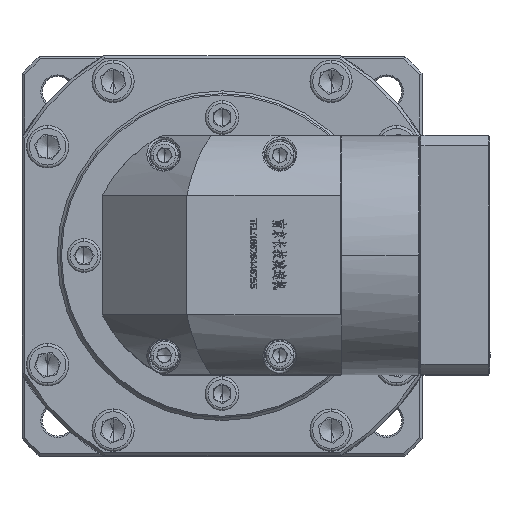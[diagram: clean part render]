
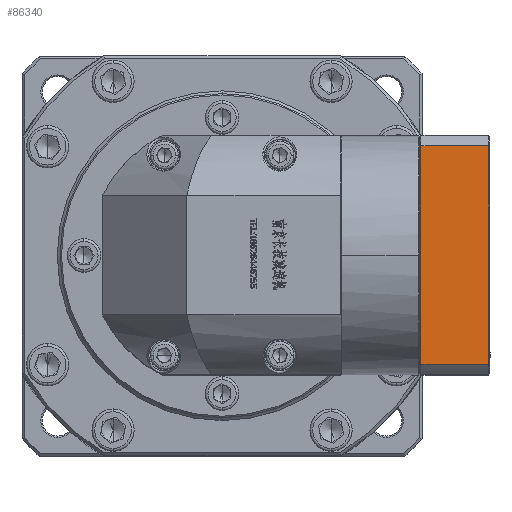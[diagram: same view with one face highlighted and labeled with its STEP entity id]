
A CAD part, top view. The second image highlights one B-rep face of the part: STEP entity #86340.
In plain terms, the highlighted planar face has unit normal (0, 0, 1).
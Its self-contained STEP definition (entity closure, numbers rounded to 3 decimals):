
#2552 = ORIENTED_EDGE ( 'NONE', *, *, #162518, .T. ) ;
#2641 = EDGE_CURVE ( 'NONE', #154307, #96535, #145681, .T. ) ;
#23940 = CARTESIAN_POINT ( 'NONE',  ( 123.2, 182.508, 28.187 ) ) ;
#33310 = VECTOR ( 'NONE', #115278, 1000. ) ;
#35116 = PLANE ( 'NONE',  #172189 ) ;
#36708 = VERTEX_POINT ( 'NONE', #151783 ) ;
#37958 = ORIENTED_EDGE ( 'NONE', *, *, #2641, .F. ) ;
#60910 = LINE ( 'NONE', #101757, #33310 ) ;
#62733 = CARTESIAN_POINT ( 'NONE',  ( 123.7, 101.278, 28.187 ) ) ;
#75375 = CARTESIAN_POINT ( 'NONE',  ( 123.2, 101.278, 28.187 ) ) ;
#76865 = CARTESIAN_POINT ( 'NONE',  ( -65.561, 105.048, 28.187 ) ) ;
#79007 = VECTOR ( 'NONE', #157596, 1000. ) ;
#86340 = ADVANCED_FACE ( 'NONE', ( #167028 ), #35116, .F. ) ;
#90192 = EDGE_CURVE ( 'NONE', #36708, #154307, #157025, .T. ) ;
#92222 = DIRECTION ( 'NONE',  ( 0., 1., 0. ) ) ;
#96535 = VERTEX_POINT ( 'NONE', #159534 ) ;
#101411 = VECTOR ( 'NONE', #121179, 1000. ) ;
#101757 = CARTESIAN_POINT ( 'NONE',  ( 99.2, 101.278, 28.187 ) ) ;
#110148 = VERTEX_POINT ( 'NONE', #170633 ) ;
#110655 = LINE ( 'NONE', #76865, #101411 ) ;
#112000 = ORIENTED_EDGE ( 'NONE', *, *, #118200, .F. ) ;
#115278 = DIRECTION ( 'NONE',  ( 0., -1., 0. ) ) ;
#118200 = EDGE_CURVE ( 'NONE', #96535, #110148, #110655, .T. ) ;
#121179 = DIRECTION ( 'NONE',  ( -1., 0., 0. ) ) ;
#126152 = EDGE_LOOP ( 'NONE', ( #2552, #112000, #37958, #151591 ) ) ;
#130701 = CARTESIAN_POINT ( 'NONE',  ( 123.7, 182.508, 28.187 ) ) ;
#131942 = DIRECTION ( 'NONE',  ( 0., -1., 0. ) ) ;
#145681 = LINE ( 'NONE', #75375, #173350 ) ;
#151591 = ORIENTED_EDGE ( 'NONE', *, *, #90192, .F. ) ;
#151783 = CARTESIAN_POINT ( 'NONE',  ( 99.2, 182.508, 28.187 ) ) ;
#154307 = VERTEX_POINT ( 'NONE', #23940 ) ;
#157025 = LINE ( 'NONE', #130701, #79007 ) ;
#157596 = DIRECTION ( 'NONE',  ( 1., 0., 0. ) ) ;
#159534 = CARTESIAN_POINT ( 'NONE',  ( 123.2, 105.048, 28.187 ) ) ;
#162518 = EDGE_CURVE ( 'NONE', #36708, #110148, #60910, .T. ) ;
#167028 = FACE_OUTER_BOUND ( 'NONE', #126152, .T. ) ;
#170633 = CARTESIAN_POINT ( 'NONE',  ( 99.2, 105.048, 28.187 ) ) ;
#172189 = AXIS2_PLACEMENT_3D ( 'NONE', #62733, #180179, #92222 ) ;
#173350 = VECTOR ( 'NONE', #131942, 1000. ) ;
#180179 = DIRECTION ( 'NONE',  ( 0., 0., -1. ) ) ;
